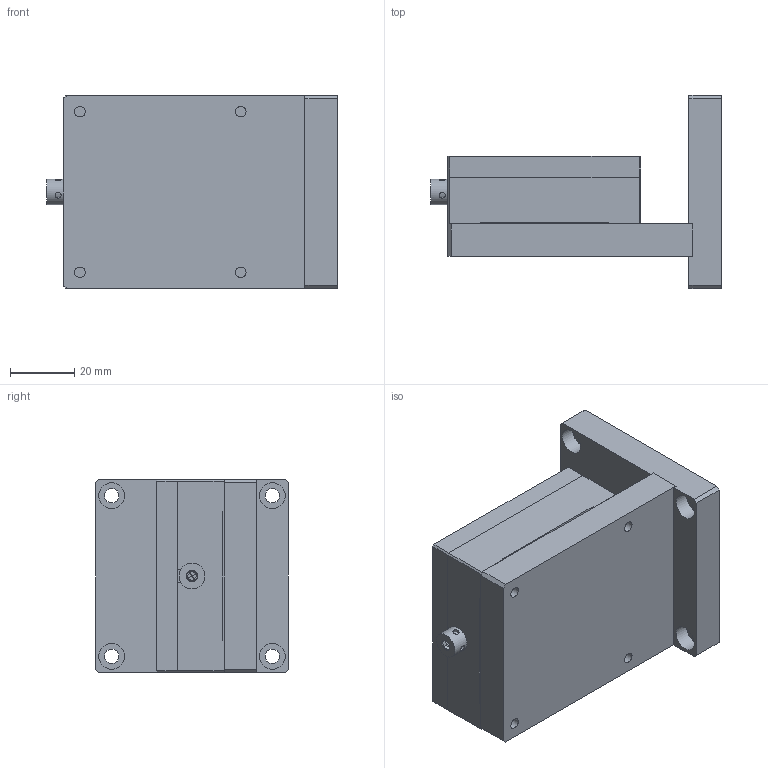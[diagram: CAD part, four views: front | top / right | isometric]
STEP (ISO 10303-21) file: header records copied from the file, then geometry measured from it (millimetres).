
FILE_DESCRIPTION (( 'STEP AP203' ), '1' );
FILE_NAME ('BKZ60.STEP', '2024-08-02T02:21:52', ( 'Windows User' ), ( 'P R C' ), 'SwSTEP 2.0', 'SolidWorks 2024', '' );
FILE_SCHEMA (( 'CONFIG_CONTROL_DESIGN' ));
Length unit declared in the file: millimetre
Products named in the file (1): BKZ60
Bounding box: 90.3 x 60 x 60 mm (x, y, z)
Volume: 145616.4 mm3; surface area: 51763.1 mm2
Topology: 9 solids, 9 shells, 274 faces, 668 edges, 430 vertices
Faces by surface type: plane 167, cylinder 77, cone 27, torus 3
Full cylindrical faces by diameter (mm): 1.9 x4, 2.459 x11, 3.242 x9, 3.3 x7, 4 x4, 4.001 x1, 4.2 x5, 4.5 x7, 5 x2, 5.001 x1, 6.001 x1, 7 x3, 8 x13
Entity records: 7575 total; most frequent: CARTESIAN_POINT 1473, DIRECTION 1240, ORIENTED_EDGE 1078, EDGE_CURVE 539, AXIS2_PLACEMENT_3D 449, EDGE_LOOP 441, VERTEX_POINT 400, FACE_OUTER_BOUND 345
